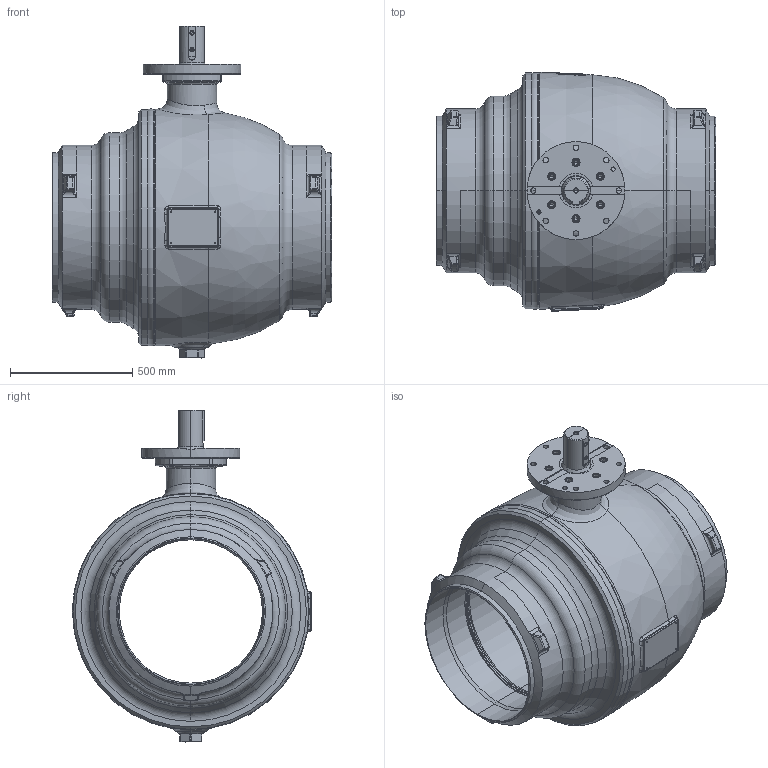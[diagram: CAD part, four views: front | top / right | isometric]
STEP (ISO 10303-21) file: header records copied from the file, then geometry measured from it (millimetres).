
FILE_DESCRIPTION((''),'2;1');
FILE_NAME('KHSVI_600_VVS_FR_WE','2026-01-27T14:13:43',('schwaba'),('KLINGER'),'CREO PARAMETRIC BY PTC INC, 2023014','CREO PARAMETRIC BY PTC INC, 2023014','');
FILE_SCHEMA(('CONFIG_CONTROL_DESIGN'));
Length unit declared in the file: millimetre
Products named in the file (1): KHSVI_600_VVS_FR_WE
Bounding box: 1143 x 976.56 x 1355.5 mm (x, y, z)
Volume: 199991257.8 mm3; surface area: 12388287.7 mm2
Topology: 1 solids, 10 shells, 1566 faces, 3896 edges, 2407 vertices
Faces by surface type: plane 718, cylinder 315, cone 186, torus 178, bspline 127, sphere 42
Entity records: 106686 total; most frequent: CARTESIAN_POINT 71251, ORIENTED_EDGE 7720, DIRECTION 6963, EDGE_CURVE 3860, AXIS2_PLACEMENT_3D 2861, VERTEX_POINT 2407, EDGE_LOOP 1723, FACE_OUTER_BOUND 1566
